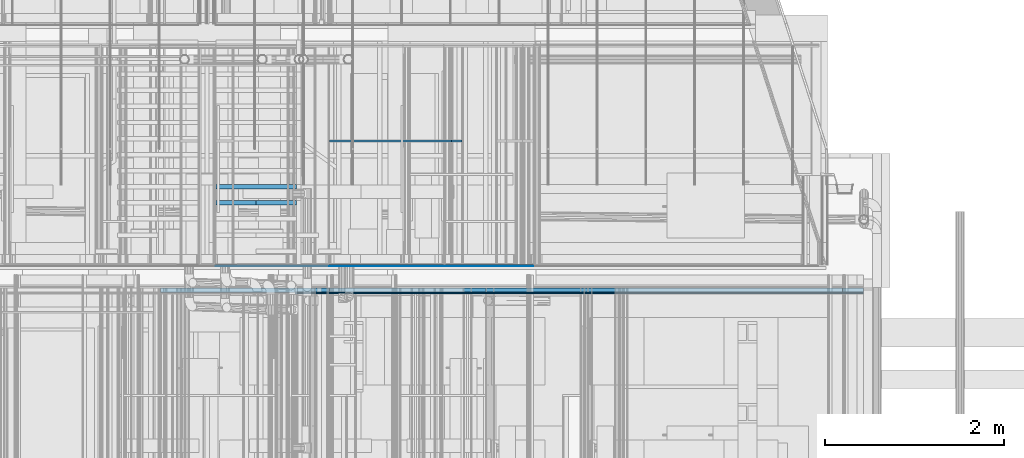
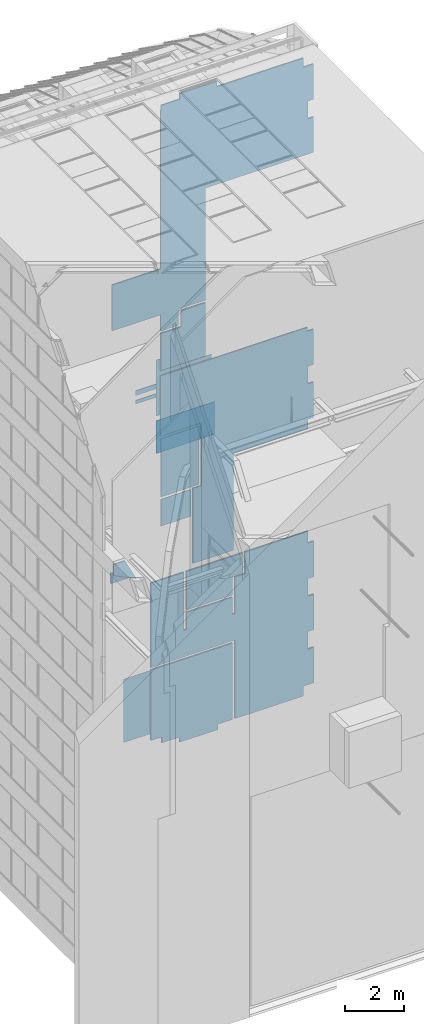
# One storey, part 282 of 583: 22 slabs.
"""IFC2X3 building model written with IfcOpenShell, lengths in metres."""

from ifc_helpers import new_model, entity, si_unit, converted_unit, derived_unit, money_unit, direction, frame, origin_with_axes, place, context, subcontext, project, spatial, faceted_brep, material, type_object, element, save


model = new_model("IFC2X3")

# Units and contexts
model_context = context("Model", 3, precision=1e-05, world=origin_with_axes(), true_north=direction((0.0, 1.0)))
body_context = subcontext(model_context, "Body", "Model", "MODEL_VIEW", scale=1.0)
ifc_project = project(units=[si_unit("LENGTHUNIT", "METRE"), si_unit("AREAUNIT", "SQUARE_METRE"), si_unit("VOLUMEUNIT", "CUBIC_METRE"), si_unit("ABSORBEDDOSEUNIT", "GRAY"), si_unit("AMOUNTOFSUBSTANCEUNIT", "MOLE"), si_unit("DOSEEQUIVALENTUNIT", "SIEVERT"), si_unit("ELECTRICCAPACITANCEUNIT", "FARAD"), si_unit("ELECTRICCHARGEUNIT", "COULOMB"), si_unit("ELECTRICCONDUCTANCEUNIT", "SIEMENS"), si_unit("ELECTRICCURRENTUNIT", "AMPERE"), si_unit("ELECTRICRESISTANCEUNIT", "OHM"), si_unit("ELECTRICVOLTAGEUNIT", "VOLT"), si_unit("ENERGYUNIT", "JOULE"), si_unit("FORCEUNIT", "NEWTON"), si_unit("FREQUENCYUNIT", "HERTZ"), si_unit("ILLUMINANCEUNIT", "LUX"), si_unit("INDUCTANCEUNIT", "HENRY"), si_unit("LUMINOUSFLUXUNIT", "LUMEN"), si_unit("LUMINOUSINTENSITYUNIT", "CANDELA"), si_unit("MAGNETICFLUXDENSITYUNIT", "TESLA"), si_unit("MAGNETICFLUXUNIT", "WEBER"), si_unit("MASSUNIT", "GRAM"), converted_unit("PLANEANGLEUNIT", "degree", entity("IfcReal", 0.0174532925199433), si_unit("PLANEANGLEUNIT", "RADIAN"), dimensions=[0, 0, 0, 0, 0, 0, 0]), si_unit("POWERUNIT", "WATT"), si_unit("PRESSUREUNIT", "PASCAL"), si_unit("RADIOACTIVITYUNIT", "BECQUEREL"), si_unit("SOLIDANGLEUNIT", "STERADIAN"), si_unit("THERMODYNAMICTEMPERATUREUNIT", "KELVIN"), si_unit("TIMEUNIT", "SECOND"), derived_unit("ACCELERATIONUNIT", [(si_unit("LENGTHUNIT", "METRE"), 1), (si_unit("TIMEUNIT", "SECOND"), -2)]), derived_unit("ANGULARVELOCITYUNIT", [(converted_unit("PLANEANGLEUNIT", "degree", entity("IfcReal", 0.0174532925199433), si_unit("PLANEANGLEUNIT", "RADIAN"), dimensions=[0, 0, 0, 0, 0, 0, 0]), 1), (si_unit("TIMEUNIT", "SECOND"), -1)]), derived_unit("CURVATUREUNIT", [(converted_unit("PLANEANGLEUNIT", "degree", entity("IfcReal", 0.0174532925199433), si_unit("PLANEANGLEUNIT", "RADIAN"), dimensions=[0, 0, 0, 0, 0, 0, 0]), 1), (si_unit("LENGTHUNIT", "METRE"), -1)]), derived_unit("DYNAMICVISCOSITYUNIT", [(si_unit("PRESSUREUNIT", "PASCAL"), 1), (si_unit("TIMEUNIT", "SECOND"), 1)]), derived_unit("HEATFLUXDENSITYUNIT", [(si_unit("POWERUNIT", "WATT"), 1), (si_unit("LENGTHUNIT", "METRE"), -2)]), derived_unit("HEATINGVALUEUNIT", [(si_unit("ENERGYUNIT", "JOULE"), 1), (si_unit("MASSUNIT", "GRAM"), -1)]), derived_unit("INTEGERCOUNTRATEUNIT", [(si_unit("TIMEUNIT", "SECOND"), -1)]), derived_unit("IONCONCENTRATIONUNIT", [(si_unit("MASSUNIT", "GRAM"), 1), (si_unit("VOLUMEUNIT", "CUBIC_METRE"), -1)]), derived_unit("ISOTHERMALMOISTURECAPACITYUNIT", [(si_unit("VOLUMEUNIT", "CUBIC_METRE"), 1), (si_unit("MASSUNIT", "GRAM"), -1)]), derived_unit("KINEMATICVISCOSITYUNIT", [(si_unit("AREAUNIT", "SQUARE_METRE"), 1), (si_unit("TIMEUNIT", "SECOND"), -1)]), derived_unit("LINEARFORCEUNIT", [(si_unit("FORCEUNIT", "NEWTON"), 1), (si_unit("LENGTHUNIT", "METRE"), -1)]), derived_unit("LINEARMOMENTUNIT", [(si_unit("FORCEUNIT", "NEWTON"), 1), (si_unit("LENGTHUNIT", "METRE"), -1)]), derived_unit("LINEARSTIFFNESSUNIT", [(si_unit("FORCEUNIT", "NEWTON"), 1), (si_unit("LENGTHUNIT", "METRE"), -1)]), derived_unit("LINEARVELOCITYUNIT", [(si_unit("LENGTHUNIT", "METRE"), 1), (si_unit("TIMEUNIT", "SECOND"), -1)]), derived_unit("LUMINOUSINTENSITYDISTRIBUTIONUNIT", [(si_unit("LUMINOUSINTENSITYUNIT", "CANDELA"), 1), (si_unit("LUMINOUSFLUXUNIT", "LUMEN"), -1)]), derived_unit("MASSDENSITYUNIT", [(si_unit("MASSUNIT", "GRAM"), 1), (si_unit("VOLUMEUNIT", "CUBIC_METRE"), -1)]), derived_unit("MASSFLOWRATEUNIT", [(si_unit("MASSUNIT", "GRAM"), 1), (si_unit("TIMEUNIT", "SECOND"), -1)]), derived_unit("MASSPERLENGTHUNIT", [(si_unit("MASSUNIT", "GRAM"), 1), (si_unit("LENGTHUNIT", "METRE"), -1)]), derived_unit("MODULUSOFELASTICITYUNIT", [(si_unit("FORCEUNIT", "NEWTON"), 1), (si_unit("AREAUNIT", "SQUARE_METRE"), -1)]), derived_unit("MODULUSOFLINEARSUBGRADEREACTIONUNIT", [(si_unit("FORCEUNIT", "NEWTON"), 1), (si_unit("LENGTHUNIT", "METRE"), -2)]), derived_unit("MODULUSOFROTATIONALSUBGRADEREACTIONUNIT", [(si_unit("FORCEUNIT", "NEWTON"), 1), (si_unit("LENGTHUNIT", "METRE"), 1)]), derived_unit("MODULUSOFSUBGRADEREACTIONUNIT", [(si_unit("FORCEUNIT", "NEWTON"), 1), (si_unit("VOLUMEUNIT", "CUBIC_METRE"), -1)]), derived_unit("MOISTUREDIFFUSIVITYUNIT", [(si_unit("VOLUMEUNIT", "CUBIC_METRE"), 1), (si_unit("TIMEUNIT", "SECOND"), -1)]), derived_unit("MOLECULARWEIGHTUNIT", [(si_unit("MASSUNIT", "GRAM"), 1), (si_unit("AMOUNTOFSUBSTANCEUNIT", "MOLE"), -1)]), derived_unit("PLANARFORCEUNIT", [(si_unit("FORCEUNIT", "NEWTON"), 1), (si_unit("LENGTHUNIT", "METRE"), -2)]), derived_unit("ROTATIONALFREQUENCYUNIT", [(si_unit("TIMEUNIT", "SECOND"), -1)]), derived_unit("ROTATIONALMASSUNIT", [(si_unit("MASSUNIT", "GRAM"), 1), (si_unit("LENGTHUNIT", "METRE"), 2)]), derived_unit("ROTATIONALSTIFFNESSUNIT", [(si_unit("FORCEUNIT", "NEWTON"), 1), (si_unit("LENGTHUNIT", "METRE"), 1), (converted_unit("PLANEANGLEUNIT", "degree", entity("IfcReal", 0.0174532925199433), si_unit("PLANEANGLEUNIT", "RADIAN"), dimensions=[0, 0, 0, 0, 0, 0, 0]), -1)]), derived_unit("SECTIONAREAINTEGRALUNIT", [(si_unit("LENGTHUNIT", "METRE"), 5)]), derived_unit("SECTIONMODULUSUNIT", [(si_unit("LENGTHUNIT", "METRE"), 3)]), derived_unit("SHEARMODULUSUNIT", [(si_unit("FORCEUNIT", "NEWTON"), 1), (si_unit("AREAUNIT", "SQUARE_METRE"), -1)]), derived_unit("SOUNDPOWERUNIT", [(si_unit("ENERGYUNIT", "JOULE"), 1), (si_unit("TIMEUNIT", "SECOND"), -1)]), derived_unit("SPECIFICHEATCAPACITYUNIT", [(si_unit("FORCEUNIT", "NEWTON"), 1), (si_unit("MASSUNIT", "GRAM"), -1), (si_unit("THERMODYNAMICTEMPERATUREUNIT", "KELVIN"), -1)]), derived_unit("TEMPERATUREGRADIENTUNIT", [(si_unit("THERMODYNAMICTEMPERATUREUNIT", "KELVIN"), 1), (si_unit("LENGTHUNIT", "METRE"), -1)]), derived_unit("THERMALADMITTANCEUNIT", [(si_unit("POWERUNIT", "WATT"), 1), (si_unit("AREAUNIT", "SQUARE_METRE"), -1), (si_unit("THERMODYNAMICTEMPERATUREUNIT", "KELVIN"), -1)]), derived_unit("THERMALCONDUCTANCEUNIT", [(si_unit("POWERUNIT", "WATT"), 1), (si_unit("LENGTHUNIT", "METRE"), -1), (si_unit("THERMODYNAMICTEMPERATUREUNIT", "KELVIN"), -1)]), derived_unit("THERMALEXPANSIONCOEFFICIENTUNIT", [(si_unit("THERMODYNAMICTEMPERATUREUNIT", "KELVIN"), -1)]), derived_unit("THERMALRESISTANCEUNIT", [(si_unit("AREAUNIT", "SQUARE_METRE"), 1), (si_unit("POWERUNIT", "WATT"), -1)]), derived_unit("THERMALTRANSMITTANCEUNIT", [(si_unit("POWERUNIT", "WATT"), 1), (si_unit("AREAUNIT", "SQUARE_METRE"), -1), (si_unit("THERMODYNAMICTEMPERATUREUNIT", "KELVIN"), -1)]), derived_unit("TORQUEUNIT", [(si_unit("FORCEUNIT", "NEWTON"), 1), (si_unit("LENGTHUNIT", "METRE"), 1)]), derived_unit("VAPORPERMEABILITYUNIT", [(si_unit("MASSUNIT", "GRAM"), 1), (si_unit("TIMEUNIT", "SECOND"), -1)]), derived_unit("VOLUMETRICFLOWRATEUNIT", [(si_unit("VOLUMEUNIT", "CUBIC_METRE"), 1), (si_unit("TIMEUNIT", "SECOND"), -1)]), derived_unit("WARPINGCONSTANTUNIT", [(si_unit("LENGTHUNIT", "METRE"), 6)]), derived_unit("WARPINGMOMENTUNIT", [(si_unit("FORCEUNIT", "NEWTON"), 1), (si_unit("LENGTHUNIT", "METRE"), 2)]), money_unit("GBP")], contexts=[model_context])

# Site, building, storey
site_placement = place(None, origin_with_axes())
site = spatial("IfcSite", under=ifc_project, at=site_placement, Name="Site", CompositionType="ELEMENT")
building_placement = place(site_placement, origin_with_axes())
building = spatial("IfcBuilding", under=site, at=building_placement, Name="Building01", CompositionType="ELEMENT")
storey_placement = place(building_placement, frame((0.0, 0.0, 20.78), z_axis=(0.0, 0.0, 1.0), x_axis=(1.0, 0.0, 0.0)))
storey = spatial("IfcBuildingStorey", under=building, at=storey_placement, Name="RL", CompositionType="ELEMENT", Elevation=20.78)

# Slabs
ifc_material_1 = material(Name="A_BSUK_CeilingSoffitFinishes_Suspended")
slab_type_1 = type_object("IfcSlabType", Name="A-FloorsSlabs A_BSUK_Slabs", PredefinedType="FLOOR")
placement = place(storey_placement, frame((0.0, 0.0, -20.78), z_axis=(0.0, 0.0, 1.0), x_axis=(1.0, 0.0, 0.0)))
element("IfcSlab", 1, at=placement, inside=storey, type_object=slab_type_1, material=ifc_material_1, Name="A-FloorsSlabs A_BSUK_Slabs", ObjectType="CompoundSlabLeaf", context=body_context, shape_type="Brep", body=[
    faceted_brep([(9.73567, 14.658, 4.669669), (9.73567, 14.673, 4.669669), (9.73567, 14.673, 7.064669), (9.73567, 14.658, 7.064669), (9.83067, 14.658, 4.669669), (9.83067, 14.673, 4.669669), (9.83067, 14.658, 5.369669), (9.83067, 14.673, 5.369669), (11.63067, 14.658, 5.369669), (11.63067, 14.673, 5.369669), (11.63067, 14.658, 4.669669), (11.63067, 14.673, 4.669669), (11.72567, 14.658, 4.669669), (11.72567, 14.673, 4.669669), (11.72567, 14.658, 6.169669), (11.72567, 14.673, 6.169669), (12.11067, 14.658, 6.169669), (12.11067, 14.673, 6.169669), (12.11067, 14.658, 7.064669), (12.11067, 14.673, 7.064669), (14.582, 14.658, 7.064669), (14.582, 14.673, 7.064669), (14.582, 14.658, 6.574876), (14.582, 14.673, 6.574876), (14.8, 14.658, 6.574876), (14.8, 14.673, 6.574876), (14.8, 14.658, 5.105), (14.8, 14.673, 5.105), (14.582, 14.658, 5.105), (14.582, 14.673, 5.105), (14.582, 14.658, 4.385), (14.582, 14.673, 4.385), (14.8, 14.658, 4.385), (14.8, 14.673, 4.385), (14.8, 14.658, 2.915), (14.8, 14.673, 2.915), (14.582, 14.658, 2.915), (14.582, 14.673, 2.915), (14.582, 14.658, 2.195), (14.582, 14.673, 2.195), (14.8, 14.658, 2.195), (14.8, 14.673, 2.195), (14.8, 14.658, 0.725), (14.8, 14.673, 0.725), (14.402, 14.658, 0.725), (14.402, 14.673, 0.725), (14.402, 14.658, 0.318), (14.402, 14.673, 0.318), (11.72567, 14.658, 0.318), (11.72567, 14.673, 0.318), (11.72567, 14.658, 3.569669), (11.72567, 14.673, 3.569669), (8.43567, 14.658, 3.569669), (8.43567, 14.673, 3.569669), (8.43567, 14.658, 7.064669), (8.43567, 14.673, 7.064669)], [[[0, 1, 2, 3]], [[4, 5, 1, 0]], [[6, 7, 5, 4]], [[8, 9, 7, 6]], [[10, 11, 9, 8]], [[12, 13, 11, 10]], [[14, 15, 13, 12]], [[16, 17, 15, 14]], [[18, 19, 17, 16]], [[20, 21, 19, 18]], [[22, 23, 21, 20]], [[24, 25, 23, 22]], [[26, 27, 25, 24]], [[28, 29, 27, 26]], [[30, 31, 29, 28]], [[32, 33, 31, 30]], [[34, 35, 33, 32]], [[36, 37, 35, 34]], [[38, 39, 37, 36]], [[40, 41, 39, 38]], [[42, 43, 41, 40]], [[44, 45, 43, 42]], [[46, 47, 45, 44]], [[48, 49, 47, 46]], [[50, 51, 49, 48]], [[52, 53, 51, 50]], [[54, 55, 53, 52]], [[3, 2, 55, 54]], [[1, 5, 7, 9, 11, 13, 15, 17, 19, 21, 23, 25, 27, 29, 31, 33, 35, 37, 39, 41, 43, 45, 47, 49, 51, 53, 55, 2]], [[3, 54, 52, 50, 48, 46, 44, 42, 40, 38, 36, 34, 32, 30, 28, 26, 24, 22, 20, 18, 16, 14, 12, 10, 8, 6, 4, 0]]]),
])
element("IfcSlab", 2, at=placement, inside=storey, type_object=slab_type_1, material=ifc_material_1, Name="A-FloorsSlabs A_BSUK_Slabs", ObjectType="CompoundSlabLeaf", context=body_context, shape_type="Brep", body=[
    faceted_brep([(10.53067, 14.658, 5.464669), (10.53067, 14.673, 5.464669), (11.63067, 14.673, 5.464669), (11.63067, 14.658, 5.464669), (9.83067, 14.658, 5.464669), (9.83067, 14.673, 5.464669), (9.83067, 14.658, 7.064669), (9.83067, 14.673, 7.064669), (12.01567, 14.658, 7.064669), (12.01567, 14.673, 7.064669), (12.01567, 14.658, 6.264669), (12.01567, 14.673, 6.264669), (11.63067, 14.658, 6.264669), (11.63067, 14.673, 6.264669)], [[[0, 1, 2, 3]], [[4, 5, 1, 0]], [[6, 7, 5, 4]], [[8, 9, 7, 6]], [[10, 11, 9, 8]], [[12, 13, 11, 10]], [[3, 2, 13, 12]], [[1, 5, 7, 9, 11, 13, 2]], [[3, 12, 10, 8, 6, 4, 0]]]),
])
element("IfcSlab", 3, at=placement, inside=storey, type_object=slab_type_1, material=ifc_material_1, Name="A-FloorsSlabs A_BSUK_Slabs", ObjectType="CompoundSlabLeaf", context=body_context, shape_type="Brep", body=[
    faceted_brep([(10.32, 14.658, 10.488871), (10.32, 14.673, 10.488871), (10.32, 14.673, 12.893585), (10.32, 14.658, 12.893585), (8.82, 14.658, 10.488871), (8.82, 14.673, 10.488871), (8.82, 14.658, 12.893585), (8.82, 14.673, 12.893585)], [[[0, 1, 2, 3]], [[4, 5, 1, 0]], [[6, 7, 5, 4]], [[3, 2, 7, 6]], [[1, 5, 7, 2]], [[3, 6, 4, 0]]]),
])
element("IfcSlab", 4, at=placement, inside=storey, type_object=slab_type_1, material=ifc_material_1, Name="A-FloorsSlabs A_BSUK_Slabs", ObjectType="CompoundSlabLeaf", context=body_context, shape_type="Brep", body=[
    faceted_brep([(8.82, 14.658, 9.285), (8.82, 14.673, 9.285), (9.992662, 14.673, 9.285), (9.992662, 14.658, 9.285), (8.82, 14.658, 10.393585), (8.82, 14.673, 10.393585), (9.992662, 14.658, 10.393585), (9.992662, 14.673, 10.393585)], [[[0, 1, 2, 3]], [[4, 5, 1, 0]], [[6, 7, 5, 4]], [[3, 2, 7, 6]], [[1, 5, 7, 2]], [[3, 6, 4, 0]]]),
])
element("IfcSlab", 5, at=placement, inside=storey, type_object=slab_type_1, material=ifc_material_1, Name="A-FloorsSlabs A_BSUK_Slabs", ObjectType="CompoundSlabLeaf", context=body_context, shape_type="Brep", body=[
    faceted_brep([(10.57, 14.658, 15.708132), (10.57, 14.673, 15.708132), (10.57, 14.673, 17.905), (10.57, 14.658, 17.905), (8.82, 14.658, 15.708132), (8.82, 14.673, 15.708132), (8.82, 14.658, 17.238132), (8.82, 14.673, 17.238132), (9.62, 14.658, 17.238132), (9.62, 14.673, 17.238132), (9.62, 14.658, 17.905), (9.62, 14.673, 17.905)], [[[0, 1, 2, 3]], [[4, 5, 1, 0]], [[6, 7, 5, 4]], [[8, 9, 7, 6]], [[10, 11, 9, 8]], [[3, 2, 11, 10]], [[1, 5, 7, 9, 11, 2]], [[3, 10, 8, 6, 4, 0]]]),
])
element("IfcSlab", 6, at=placement, inside=storey, type_object=slab_type_1, material=ifc_material_1, Name="A-FloorsSlabs A_BSUK_Slabs", ObjectType="CompoundSlabLeaf", context=body_context, shape_type="Brep", body=[
    faceted_brep([(11.63067, 14.658, 0.318), (11.63067, 14.673, 0.318), (11.63067, 14.673, 3.474669), (11.63067, 14.658, 3.474669), (11.055, 14.658, 0.318), (11.055, 14.673, 0.318), (11.055, 14.658, 0.1), (11.055, 14.673, 0.1), (9.56218, 14.658, 0.1), (9.56218, 14.673, 0.1), (9.56218, 14.658, 0.318), (9.56218, 14.673, 0.318), (8.863, 14.658, 0.318), (8.863, 14.673, 0.318), (8.863, 14.658, 0.562178), (8.863, 14.673, 0.562178), (8.43567, 14.658, 0.562178), (8.43567, 14.673, 0.562178), (8.43567, 14.658, 3.474669), (8.43567, 14.673, 3.474669)], [[[0, 1, 2, 3]], [[4, 5, 1, 0]], [[6, 7, 5, 4]], [[8, 9, 7, 6]], [[10, 11, 9, 8]], [[12, 13, 11, 10]], [[14, 15, 13, 12]], [[16, 17, 15, 14]], [[18, 19, 17, 16]], [[3, 2, 19, 18]], [[1, 5, 7, 9, 11, 13, 15, 17, 19, 2]], [[3, 18, 16, 14, 12, 10, 8, 6, 4, 0]]]),
])
ifc_material_2 = material(Name="A_BSUK_Ceramic_WallTiles")
element("IfcSlab", 7, at=placement, inside=storey, type_object=slab_type_1, material=ifc_material_2, Name="A-FloorsSlabs A_BSUK_Slabs", ObjectType="CompoundSlabLeaf", context=body_context, shape_type="Brep", body=[
    faceted_brep([(8.82, 16.355, 13.45), (8.82, 16.38, 13.45), (8.82, 16.38, 13.297256), (8.82, 16.355, 13.297256), (10.303849, 16.355, 13.45), (10.303849, 16.38, 13.45), (10.303849, 16.355, 13.297393), (10.303849, 16.38, 13.297393)], [[[0, 1, 2, 3]], [[4, 5, 1, 0]], [[6, 7, 5, 4]], [[3, 2, 7, 6]], [[1, 5, 7, 2]], [[3, 6, 4, 0]]]),
])
element("IfcSlab", 8, at=placement, inside=storey, type_object=slab_type_1, material=ifc_material_2, Name="A-FloorsSlabs A_BSUK_Slabs", ObjectType="CompoundSlabLeaf", context=body_context, shape_type="Brep", body=[
    faceted_brep([(8.82, 16.355, 13.849998), (8.82, 16.38, 13.849998), (8.82, 16.38, 13.65), (8.82, 16.355, 13.65), (10.185441, 16.355, 13.849998), (10.185441, 16.38, 13.849998), (10.185441, 16.355, 13.65), (10.185441, 16.38, 13.65)], [[[0, 1, 2, 3]], [[4, 5, 1, 0]], [[6, 7, 5, 4]], [[3, 2, 7, 6]], [[1, 5, 7, 2]], [[3, 6, 4, 0]]]),
])
ifc_material_3 = material(Name="A_BSUK_ExpandedPolystyreneBoards")
element("IfcSlab", 9, at=placement, inside=storey, type_object=slab_type_1, material=ifc_material_3, Name="A-FloorsSlabs A_BSUK_Slabs", ObjectType="CompoundSlabLeaf", context=body_context, shape_type="Brep", body=[
    faceted_brep([(10.899915, 14.965, 0.6038), (10.899915, 14.968, 0.6038), (10.899915, 14.968, 2.82), (10.899915, 14.965, 2.82), (10.874915, 14.965, 0.6038), (10.874915, 14.968, 0.6038), (9.724964, 14.965, 0.6038), (9.724964, 14.968, 0.6038), (8.024915, 14.965, 0.6038), (8.024915, 14.968, 0.6038), (7.550061, 14.965, 0.6038), (7.550061, 14.968, 0.6038), (7.550026, 14.965, 3.22), (7.550026, 14.968, 3.22), (10.099939, 14.965, 3.22), (10.099939, 14.968, 3.22), (10.099939, 14.965, 2.82), (10.099939, 14.968, 2.82)], [[[0, 1, 2, 3]], [[4, 5, 1, 0]], [[6, 7, 5, 4]], [[8, 9, 7, 6]], [[10, 11, 9, 8]], [[12, 13, 11, 10]], [[14, 15, 13, 12]], [[16, 17, 15, 14]], [[3, 2, 17, 16]], [[1, 5, 7, 9, 11, 13, 15, 17, 2]], [[3, 16, 14, 12, 10, 8, 6, 4, 0]]]),
])
element("IfcSlab", 10, at=placement, inside=storey, type_object=slab_type_1, material=ifc_material_3, Name="A-FloorsSlabs A_BSUK_Slabs", ObjectType="CompoundSlabLeaf", context=body_context, shape_type="Brep", body=[
    faceted_brep([(8.82, 14.965, 12.097381), (8.82, 14.968, 12.097381), (11.103849, 14.968, 12.097381), (11.103849, 14.965, 12.097381), (8.82, 14.965, 13.297256), (8.82, 14.968, 13.297256), (8.82, 14.965, 13.45), (8.82, 14.968, 13.45), (11.103849, 14.965, 13.45), (11.103849, 14.968, 13.45)], [[[0, 1, 2, 3]], [[4, 5, 1, 0]], [[6, 7, 5, 4]], [[8, 9, 7, 6]], [[3, 2, 9, 8]], [[1, 5, 7, 9, 2]], [[3, 8, 6, 4, 0]]]),
])
element("IfcSlab", 11, at=placement, inside=storey, type_object=slab_type_1, material=ifc_material_3, Name="A-FloorsSlabs A_BSUK_Slabs", ObjectType="CompoundSlabLeaf", context=body_context, shape_type="Brep", body=[
    faceted_brep([(8.82, 14.965, 13.65), (8.82, 14.968, 13.65), (10.983789, 14.968, 13.65), (10.983789, 14.965, 13.65), (8.82, 14.965, 15.95844), (8.82, 14.968, 15.95844), (10.099939, 14.965, 15.95844), (10.099939, 14.968, 15.95844), (10.099939, 14.965, 15.449998), (10.099939, 14.968, 15.449998), (10.983789, 14.965, 15.449998), (10.983789, 14.968, 15.449998)], [[[0, 1, 2, 3]], [[4, 5, 1, 0]], [[6, 7, 5, 4]], [[8, 9, 7, 6]], [[10, 11, 9, 8]], [[3, 2, 11, 10]], [[1, 5, 7, 9, 11, 2]], [[3, 10, 8, 6, 4, 0]]]),
])
ifc_material_4 = material(Name="A_BSUK_Slabs")
element("IfcSlab", 12, at=placement, inside=storey, type_object=slab_type_1, material=ifc_material_4, Name="A-FloorsSlabs A_BSUK_Slabs", ObjectType="CompoundSlabLeaf", context=body_context, shape_type="Brep", body=[
    faceted_brep([(7.549939, 15.83, 6.64), (7.549939, 15.88, 6.64), (8.449939, 15.88, 6.64), (8.449939, 15.83, 6.64), (7.549939, 15.83, 7.09), (7.549939, 15.88, 7.09)], [[[0, 1, 2, 3]], [[4, 5, 1, 0]], [[3, 2, 5, 4]], [[1, 5, 2]], [[3, 4, 0]]]),
])
element("IfcSlab", 13, at=placement, inside=storey, type_object=slab_type_1, material=ifc_material_4, Name="A-FloorsSlabs A_BSUK_Slabs", ObjectType="CompoundSlabLeaf", context=body_context, shape_type="Brep", body=[
    faceted_brep([(7.549939, 15.65, 7.09), (7.549939, 15.7, 7.09), (8.449939, 15.7, 6.64), (8.449939, 15.65, 6.64), (7.549939, 15.65, 7.54), (7.549939, 15.7, 7.54), (7.999939, 15.65, 7.54), (7.999939, 15.7, 7.54)], [[[0, 1, 2, 3]], [[4, 5, 1, 0]], [[6, 7, 5, 4]], [[3, 2, 7, 6]], [[1, 5, 7, 2]], [[3, 6, 4, 0]]]),
])
ifc_material_5 = material(Name="A_BSUK_Ceramic_FloorTiles")
slab_type_2 = type_object("IfcSlabType", Name="A-Finishes A_BSUK_Ceramic_FloorTiles", PredefinedType="FLOOR")
element("IfcSlab", 14, at=placement, inside=storey, type_object=slab_type_2, material=ifc_material_5, Name="A-Finishes A_BSUK_Ceramic_FloorTiles", ObjectType="CompoundSlabLeaf", context=body_context, shape_type="Brep", body=[
    faceted_brep([(10.899915, 14.968, 0.6038), (10.899915, 14.98, 0.6038), (10.899915, 14.98, 2.82), (10.899915, 14.968, 2.82), (10.874915, 14.968, 0.6038), (10.874915, 14.98, 0.6038), (9.724964, 14.968, 0.6038), (9.724964, 14.98, 0.6038), (8.024915, 14.968, 0.6038), (8.024915, 14.98, 0.6038), (7.550061, 14.968, 0.6038), (7.550061, 14.98, 0.6038), (7.550026, 14.968, 3.22), (7.550026, 14.98, 3.22), (10.099939, 14.968, 3.22), (10.099939, 14.98, 3.22), (10.099939, 14.968, 2.82), (10.099939, 14.98, 2.82)], [[[0, 1, 2, 3]], [[4, 5, 1, 0]], [[6, 7, 5, 4]], [[8, 9, 7, 6]], [[10, 11, 9, 8]], [[12, 13, 11, 10]], [[14, 15, 13, 12]], [[16, 17, 15, 14]], [[3, 2, 17, 16]], [[1, 5, 7, 9, 11, 13, 15, 17, 2]], [[3, 16, 14, 12, 10, 8, 6, 4, 0]]]),
])
element("IfcSlab", 15, at=placement, inside=storey, type_object=slab_type_2, material=ifc_material_5, Name="A-Finishes A_BSUK_Ceramic_FloorTiles", ObjectType="CompoundSlabLeaf", context=body_context, shape_type="Brep", body=[
    faceted_brep([(8.82, 14.968, 12.097381), (8.82, 14.98, 12.097381), (11.103849, 14.98, 12.097381), (11.103849, 14.968, 12.097381), (8.82, 14.968, 13.297256), (8.82, 14.98, 13.297256), (8.82, 14.968, 13.45), (8.82, 14.98, 13.45), (11.103849, 14.968, 13.45), (11.103849, 14.98, 13.45)], [[[0, 1, 2, 3]], [[4, 5, 1, 0]], [[6, 7, 5, 4]], [[8, 9, 7, 6]], [[3, 2, 9, 8]], [[1, 5, 7, 9, 2]], [[3, 8, 6, 4, 0]]]),
])
element("IfcSlab", 16, at=placement, inside=storey, type_object=slab_type_2, material=ifc_material_5, Name="A-Finishes A_BSUK_Ceramic_FloorTiles", ObjectType="CompoundSlabLeaf", context=body_context, shape_type="Brep", body=[
    faceted_brep([(8.82, 14.968, 13.65), (8.82, 14.98, 13.65), (10.983789, 14.98, 13.65), (10.983789, 14.968, 13.65), (8.82, 14.968, 15.95844), (8.82, 14.98, 15.95844), (10.099939, 14.968, 15.95844), (10.099939, 14.98, 15.95844), (10.099939, 14.968, 15.449998), (10.099939, 14.98, 15.449998), (10.983789, 14.968, 15.449998), (10.983789, 14.98, 15.449998)], [[[0, 1, 2, 3]], [[4, 5, 1, 0]], [[6, 7, 5, 4]], [[8, 9, 7, 6]], [[10, 11, 9, 8]], [[3, 2, 11, 10]], [[1, 5, 7, 9, 11, 2]], [[3, 10, 8, 6, 4, 0]]]),
])
slab_type_3 = type_object("IfcSlabType", Name="A-FloorsSlabs A_BSUK_ExpandedPolystyreneBoards", PredefinedType="FLOOR")
element("IfcSlab", 17, at=placement, inside=storey, type_object=slab_type_3, material=ifc_material_3, Name="A-FloorsSlabs A_BSUK_ExpandedPolystyreneBoards", ObjectType="CompoundSlabLeaf", context=body_context, shape_type="Brep", body=[
    faceted_brep([(9.73567, 14.673, 4.669669), (9.73567, 14.723, 4.669669), (9.73567, 14.723, 7.064669), (9.73567, 14.673, 7.064669), (9.83067, 14.673, 4.669669), (9.83067, 14.723, 4.669669), (9.83067, 14.673, 5.369669), (9.83067, 14.723, 5.369669), (11.63067, 14.673, 5.369669), (11.63067, 14.723, 5.369669), (11.63067, 14.673, 4.669669), (11.63067, 14.723, 4.669669), (11.72567, 14.673, 4.669669), (11.72567, 14.723, 4.669669), (11.72567, 14.673, 6.169669), (11.72567, 14.723, 6.169669), (12.11067, 14.673, 6.169669), (12.11067, 14.723, 6.169669), (12.11067, 14.673, 7.064669), (12.11067, 14.723, 7.064669), (14.582, 14.673, 7.064669), (14.582, 14.723, 7.064669), (14.582, 14.673, 6.574876), (14.582, 14.723, 6.574876), (14.8, 14.673, 6.574876), (14.8, 14.723, 6.574876), (14.8, 14.673, 5.105), (14.8, 14.723, 5.105), (14.582, 14.673, 5.105), (14.582, 14.723, 5.105), (14.582, 14.673, 4.385), (14.582, 14.723, 4.385), (14.8, 14.673, 4.385), (14.8, 14.723, 4.385), (14.8, 14.673, 2.915), (14.8, 14.723, 2.915), (14.582, 14.673, 2.915), (14.582, 14.723, 2.915), (14.582, 14.673, 2.195), (14.582, 14.723, 2.195), (14.8, 14.673, 2.195), (14.8, 14.723, 2.195), (14.8, 14.673, 0.725), (14.8, 14.723, 0.725), (14.402, 14.673, 0.725), (14.402, 14.723, 0.725), (14.402, 14.673, 0.318), (14.402, 14.723, 0.318), (11.72567, 14.673, 0.318), (11.72567, 14.723, 0.318), (11.72567, 14.673, 3.569669), (11.72567, 14.723, 3.569669), (8.43567, 14.673, 3.569669), (8.43567, 14.723, 3.569669), (8.43567, 14.673, 7.064669), (8.43567, 14.723, 7.064669)], [[[0, 1, 2, 3]], [[4, 5, 1, 0]], [[6, 7, 5, 4]], [[8, 9, 7, 6]], [[10, 11, 9, 8]], [[12, 13, 11, 10]], [[14, 15, 13, 12]], [[16, 17, 15, 14]], [[18, 19, 17, 16]], [[20, 21, 19, 18]], [[22, 23, 21, 20]], [[24, 25, 23, 22]], [[26, 27, 25, 24]], [[28, 29, 27, 26]], [[30, 31, 29, 28]], [[32, 33, 31, 30]], [[34, 35, 33, 32]], [[36, 37, 35, 34]], [[38, 39, 37, 36]], [[40, 41, 39, 38]], [[42, 43, 41, 40]], [[44, 45, 43, 42]], [[46, 47, 45, 44]], [[48, 49, 47, 46]], [[50, 51, 49, 48]], [[52, 53, 51, 50]], [[54, 55, 53, 52]], [[3, 2, 55, 54]], [[1, 5, 7, 9, 11, 13, 15, 17, 19, 21, 23, 25, 27, 29, 31, 33, 35, 37, 39, 41, 43, 45, 47, 49, 51, 53, 55, 2]], [[3, 54, 52, 50, 48, 46, 44, 42, 40, 38, 36, 34, 32, 30, 28, 26, 24, 22, 20, 18, 16, 14, 12, 10, 8, 6, 4, 0]]]),
])
element("IfcSlab", 18, at=placement, inside=storey, type_object=slab_type_3, material=ifc_material_3, Name="A-FloorsSlabs A_BSUK_ExpandedPolystyreneBoards", ObjectType="CompoundSlabLeaf", context=body_context, shape_type="Brep", body=[
    faceted_brep([(10.53067, 14.673, 5.464669), (10.53067, 14.723, 5.464669), (11.63067, 14.723, 5.464669), (11.63067, 14.673, 5.464669), (9.83067, 14.673, 5.464669), (9.83067, 14.723, 5.464669), (9.83067, 14.673, 7.064669), (9.83067, 14.723, 7.064669), (12.01567, 14.673, 7.064669), (12.01567, 14.723, 7.064669), (12.01567, 14.673, 6.264669), (12.01567, 14.723, 6.264669), (11.63067, 14.673, 6.264669), (11.63067, 14.723, 6.264669)], [[[0, 1, 2, 3]], [[4, 5, 1, 0]], [[6, 7, 5, 4]], [[8, 9, 7, 6]], [[10, 11, 9, 8]], [[12, 13, 11, 10]], [[3, 2, 13, 12]], [[1, 5, 7, 9, 11, 13, 2]], [[3, 12, 10, 8, 6, 4, 0]]]),
])
element("IfcSlab", 19, at=placement, inside=storey, type_object=slab_type_3, material=ifc_material_3, Name="A-FloorsSlabs A_BSUK_ExpandedPolystyreneBoards", ObjectType="CompoundSlabLeaf", context=body_context, shape_type="Brep", body=[
    faceted_brep([(10.415, 14.673, 12.988585), (10.415, 14.723, 12.988585), (10.415, 14.723, 10.393871), (10.415, 14.673, 10.393871), (8.82, 14.673, 12.988585), (8.82, 14.723, 12.988585), (8.82, 14.673, 15.483132), (8.82, 14.723, 15.483132), (14.567, 14.673, 15.483132), (14.567, 14.723, 15.483132), (14.567, 14.673, 15.32), (14.567, 14.723, 15.32), (14.8, 14.673, 15.32), (14.8, 14.723, 15.32), (14.8, 14.673, 13.865), (14.8, 14.723, 13.865), (14.582, 14.673, 13.865), (14.582, 14.723, 13.865), (14.582, 14.673, 13.145), (14.582, 14.723, 13.145), (14.8, 14.673, 13.145), (14.8, 14.723, 13.145), (14.8, 14.673, 11.675), (14.8, 14.723, 11.675), (14.582, 14.673, 11.675), (14.582, 14.723, 11.675), (14.582, 14.673, 11.275), (14.582, 14.723, 11.275), (11.668124, 14.673, 11.275), (11.668124, 14.723, 11.275), (11.668124, 14.673, 10.653), (11.668124, 14.723, 10.653), (11.668124, 14.673, 9.642), (11.668124, 14.723, 9.642), (11.668124, 14.673, 7.289669), (11.668124, 14.723, 7.289669), (10.087704, 14.673, 7.289669), (10.087704, 14.723, 7.289669), (10.087704, 14.673, 10.393871), (10.087704, 14.723, 10.393871)], [[[0, 1, 2, 3]], [[4, 5, 1, 0]], [[6, 7, 5, 4]], [[8, 9, 7, 6]], [[10, 11, 9, 8]], [[12, 13, 11, 10]], [[14, 15, 13, 12]], [[16, 17, 15, 14]], [[18, 19, 17, 16]], [[20, 21, 19, 18]], [[22, 23, 21, 20]], [[24, 25, 23, 22]], [[26, 27, 25, 24]], [[28, 29, 27, 26]], [[30, 31, 29, 28]], [[32, 33, 31, 30]], [[34, 35, 33, 32]], [[36, 37, 35, 34]], [[38, 39, 37, 36]], [[3, 2, 39, 38]], [[1, 5, 7, 9, 11, 13, 15, 17, 19, 21, 23, 25, 27, 29, 31, 33, 35, 37, 39, 2]], [[3, 38, 36, 34, 32, 30, 28, 26, 24, 22, 20, 18, 16, 14, 12, 10, 8, 6, 4, 0]]]),
])
element("IfcSlab", 20, at=placement, inside=storey, type_object=slab_type_3, material=ifc_material_3, Name="A-FloorsSlabs A_BSUK_ExpandedPolystyreneBoards", ObjectType="CompoundSlabLeaf", context=body_context, shape_type="Brep", body=[
    faceted_brep([(6.93, 14.673, 18.395), (6.93, 14.723, 18.395), (6.93, 14.723, 18.0), (6.93, 14.673, 18.0), (6.93, 14.673, 19.395), (6.93, 14.723, 19.395), (6.93, 14.673, 19.897661), (6.93, 14.723, 19.897661), (8.82, 14.673, 19.897661), (8.82, 14.723, 19.897661), (8.82, 14.673, 26.432), (8.82, 14.723, 26.432), (8.848, 14.673, 26.432), (8.848, 14.723, 26.432), (8.848, 14.673, 26.646178), (8.848, 14.723, 26.646178), (9.57718, 14.673, 26.646178), (9.57718, 14.723, 26.646178), (9.57718, 14.673, 26.88), (9.57718, 14.723, 26.88), (11.03218, 14.673, 26.88), (11.03218, 14.723, 26.88), (11.03218, 14.673, 26.662), (11.03218, 14.723, 26.662), (14.402, 14.673, 26.662), (14.402, 14.723, 26.662), (14.402, 14.673, 26.285), (14.402, 14.723, 26.285), (14.8, 14.673, 26.285), (14.8, 14.723, 26.285), (14.8, 14.673, 24.815), (14.8, 14.723, 24.815), (14.582, 14.673, 24.815), (14.582, 14.723, 24.815), (14.582, 14.673, 24.095), (14.582, 14.723, 24.095), (14.8, 14.673, 24.095), (14.8, 14.723, 24.095), (14.8, 14.673, 22.625), (14.8, 14.723, 22.625), (10.57, 14.673, 22.625), (10.57, 14.723, 22.625), (10.57, 14.673, 19.891284), (10.57, 14.723, 19.891284), (10.57, 14.673, 19.044398), (10.57, 14.723, 19.044398), (10.57, 14.673, 18.0), (10.57, 14.723, 18.0), (9.525, 14.673, 18.0), (9.525, 14.723, 18.0), (9.525, 14.673, 17.333132), (9.525, 14.723, 17.333132), (8.82, 14.673, 17.333132), (8.82, 14.723, 17.333132), (8.82, 14.673, 18.0), (8.82, 14.723, 18.0), (7.82088, 14.673, 18.0), (7.82088, 14.723, 18.0), (7.02888, 14.673, 18.0), (7.02888, 14.723, 18.0)], [[[0, 1, 2, 3]], [[4, 5, 1, 0]], [[6, 7, 5, 4]], [[8, 9, 7, 6]], [[10, 11, 9, 8]], [[12, 13, 11, 10]], [[14, 15, 13, 12]], [[16, 17, 15, 14]], [[18, 19, 17, 16]], [[20, 21, 19, 18]], [[22, 23, 21, 20]], [[24, 25, 23, 22]], [[26, 27, 25, 24]], [[28, 29, 27, 26]], [[30, 31, 29, 28]], [[32, 33, 31, 30]], [[34, 35, 33, 32]], [[36, 37, 35, 34]], [[38, 39, 37, 36]], [[40, 41, 39, 38]], [[42, 43, 41, 40]], [[44, 45, 43, 42]], [[46, 47, 45, 44]], [[48, 49, 47, 46]], [[50, 51, 49, 48]], [[52, 53, 51, 50]], [[54, 55, 53, 52]], [[56, 57, 55, 54]], [[58, 59, 57, 56]], [[3, 2, 59, 58]], [[1, 5, 7, 9, 11, 13, 15, 17, 19, 21, 23, 25, 27, 29, 31, 33, 35, 37, 39, 41, 43, 45, 47, 49, 51, 53, 55, 57, 59, 2]], [[3, 58, 56, 54, 52, 50, 48, 46, 44, 42, 40, 38, 36, 34, 32, 30, 28, 26, 24, 22, 20, 18, 16, 14, 12, 10, 8, 6, 4, 0]]]),
])
element("IfcSlab", 21, at=placement, inside=storey, type_object=slab_type_3, material=ifc_material_3, Name="A-FloorsSlabs A_BSUK_ExpandedPolystyreneBoards", ObjectType="CompoundSlabLeaf", context=body_context, shape_type="Brep", body=[
    faceted_brep([(10.57, 14.673, 15.708132), (10.57, 14.723, 15.708132), (10.57, 14.723, 17.905), (10.57, 14.673, 17.905), (8.82, 14.673, 15.708132), (8.82, 14.723, 15.708132), (8.82, 14.673, 17.238132), (8.82, 14.723, 17.238132), (9.62, 14.673, 17.238132), (9.62, 14.723, 17.238132), (9.62, 14.673, 17.905), (9.62, 14.723, 17.905)], [[[0, 1, 2, 3]], [[4, 5, 1, 0]], [[6, 7, 5, 4]], [[8, 9, 7, 6]], [[10, 11, 9, 8]], [[3, 2, 11, 10]], [[1, 5, 7, 9, 11, 2]], [[3, 10, 8, 6, 4, 0]]]),
])
element("IfcSlab", 22, at=placement, inside=storey, type_object=slab_type_3, material=ifc_material_3, Name="A-FloorsSlabs A_BSUK_ExpandedPolystyreneBoards", ObjectType="CompoundSlabLeaf", context=body_context, shape_type="Brep", body=[
    faceted_brep([(11.63067, 14.673, 0.318), (11.63067, 14.723, 0.318), (11.63067, 14.723, 3.474669), (11.63067, 14.673, 3.474669), (11.055, 14.673, 0.318), (11.055, 14.723, 0.318), (11.055, 14.673, 0.1), (11.055, 14.723, 0.1), (9.56218, 14.673, 0.1), (9.56218, 14.723, 0.1), (9.56218, 14.673, 0.318), (9.56218, 14.723, 0.318), (8.863, 14.673, 0.318), (8.863, 14.723, 0.318), (8.863, 14.673, 0.562178), (8.863, 14.723, 0.562178), (8.43567, 14.673, 0.562178), (8.43567, 14.723, 0.562178), (8.43567, 14.673, 3.474669), (8.43567, 14.723, 3.474669)], [[[0, 1, 2, 3]], [[4, 5, 1, 0]], [[6, 7, 5, 4]], [[8, 9, 7, 6]], [[10, 11, 9, 8]], [[12, 13, 11, 10]], [[14, 15, 13, 12]], [[16, 17, 15, 14]], [[18, 19, 17, 16]], [[3, 2, 19, 18]], [[1, 5, 7, 9, 11, 13, 15, 17, 19, 2]], [[3, 18, 16, 14, 12, 10, 8, 6, 4, 0]]]),
])

save(model, "model.ifc")
